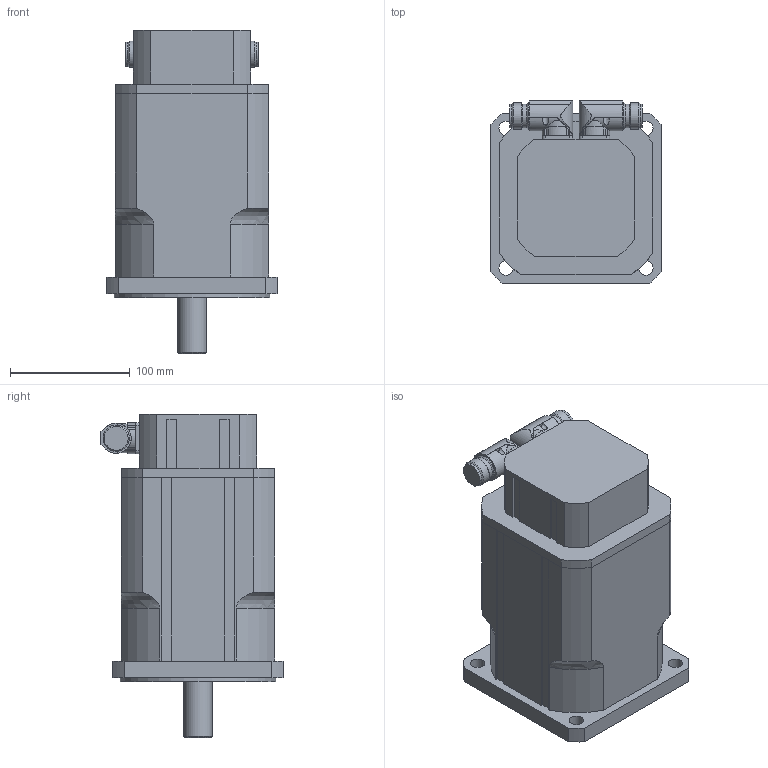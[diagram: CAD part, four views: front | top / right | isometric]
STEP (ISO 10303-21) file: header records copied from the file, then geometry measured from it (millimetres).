
FILE_DESCRIPTION(/* description */ ('Alibre Inc.'),/* implementation_level */ '2;1');
FILE_NAME(/* name */ 'export2',/* time_stamp */ '2013-07-26T12:55:05+02:00',/* author */ (''),/* organization */ (''),/* preprocessor_version */ 'ST-DEVELOPER v12',/* originating_system */ 'Alibre',/* authorisation */ '');
FILE_SCHEMA (('AUTOMOTIVE_DESIGN'));
Length unit declared in the file: millimetre
Products named in the file (5): ID_1
Bounding box: 142 x 152 x 270 mm (x, y, z)
Volume: 3249825.4 mm3; surface area: 217380.2 mm2
Topology: 5 solids, 5 shells, 233 faces, 632 edges, 419 vertices
Faces by surface type: cylinder 115, plane 102, cone 10, torus 4, bspline 2
Full cylindrical faces by diameter (mm): 2.7 x8, 6.647 x1, 12 x4, 20 x8, 22 x4, 24 x1, 130 x1
Entity records: 5618 total; most frequent: CARTESIAN_POINT 1439, ORIENTED_EDGE 828, DIRECTION 802, EDGE_CURVE 414, AXIS2_PLACEMENT_3D 326, VERTEX_POINT 290, VECTOR 231, LINE 231
